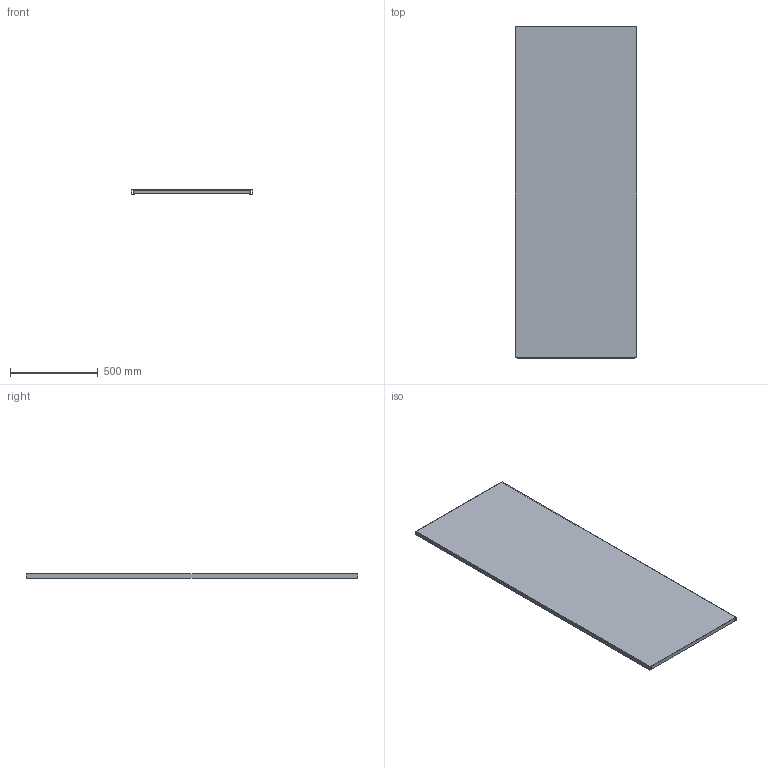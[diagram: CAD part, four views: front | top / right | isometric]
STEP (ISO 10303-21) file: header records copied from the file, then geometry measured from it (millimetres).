
FILE_DESCRIPTION( ( 'STEP AP214' ), '1' );
FILE_NAME( 'p:/temp/worker_176/temp/exporttempdir_3492_323_d7dVN/format_0/MP2008(0).stp', '2021-03-15T23:25:10', ( 'License CC BY-ND 4.0' ), ( 'CADENAS' ), ' ', 'PARTsolutions', ' ' );
FILE_SCHEMA( ( 'AUTOMOTIVE_DESIGN { 1 0 10303 214 1 1 1 1 }' ) );
Length unit declared in the file: millimetre
Products named in the file (2): MP2008(0); _MP2008(0)_P1
Assembly tree (1 placements, depth 2):
  MP2008(0)
    _MP2008(0)_P1
Bounding box: 694 x 1894 x 24.5 mm (x, y, z)
Volume: 4448274 mm3; surface area: 2981830 mm2
Topology: 1 solids, 1 shells, 42 faces, 120 edges, 80 vertices
Faces by surface type: plane 42
Entity records: 1718 total; most frequent: CARTESIAN_POINT 244, ORIENTED_EDGE 240, DIRECTION 208, EDGE_CURVE 120, LINE 120, VECTOR 120, VERTEX_POINT 80, AXIS2_PLACEMENT_3D 44
